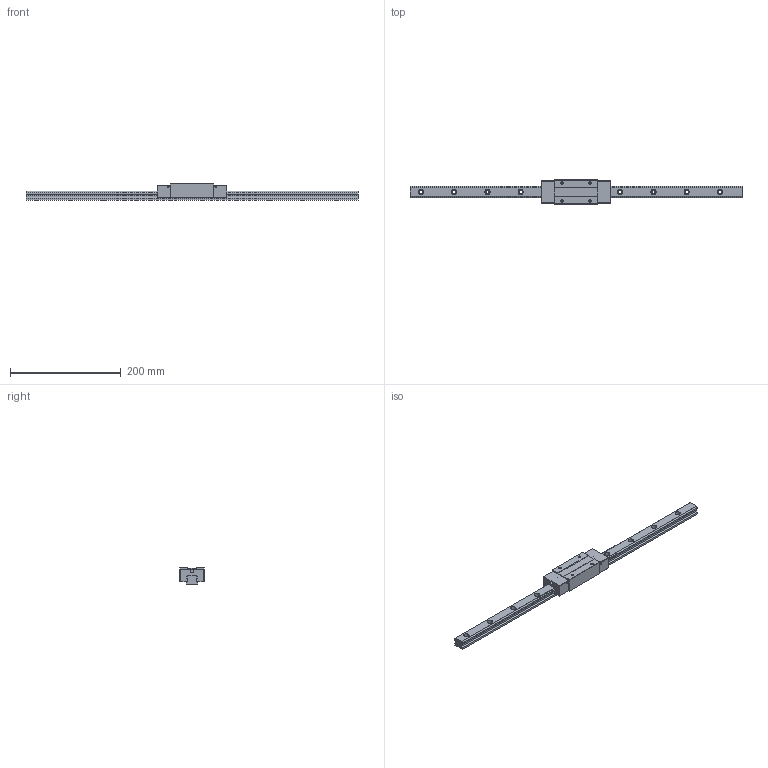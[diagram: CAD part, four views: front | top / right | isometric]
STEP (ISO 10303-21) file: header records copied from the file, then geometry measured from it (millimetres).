
FILE_DESCRIPTION (( 'STEP AP203' ), '1' );
FILE_NAME ('TRH20VE-DZ.STEP', '2024-07-10T08:00:16', ( '' ), ( '' ), 'SwSTEP 2.0', 'SolidWorks 2022', '' );
FILE_SCHEMA (( 'CONFIG_CONTROL_DESIGN' ));
Length unit declared in the file: millimetre
Products named in the file (1): TRH20VE-DZ
Bounding box: 600 x 44 x 30 mm (x, y, z)
Volume: 271753.5 mm3; surface area: 72354.9 mm2
Topology: 2 solids, 2 shells, 196 faces, 512 edges, 332 vertices
Faces by surface type: cylinder 96, plane 84, cone 16
Entity records: 6127 total; most frequent: DIRECTION 1098, CARTESIAN_POINT 1033, ORIENTED_EDGE 1008, EDGE_CURVE 504, AXIS2_PLACEMENT_3D 397, VERTEX_POINT 332, LINE 304, VECTOR 304
